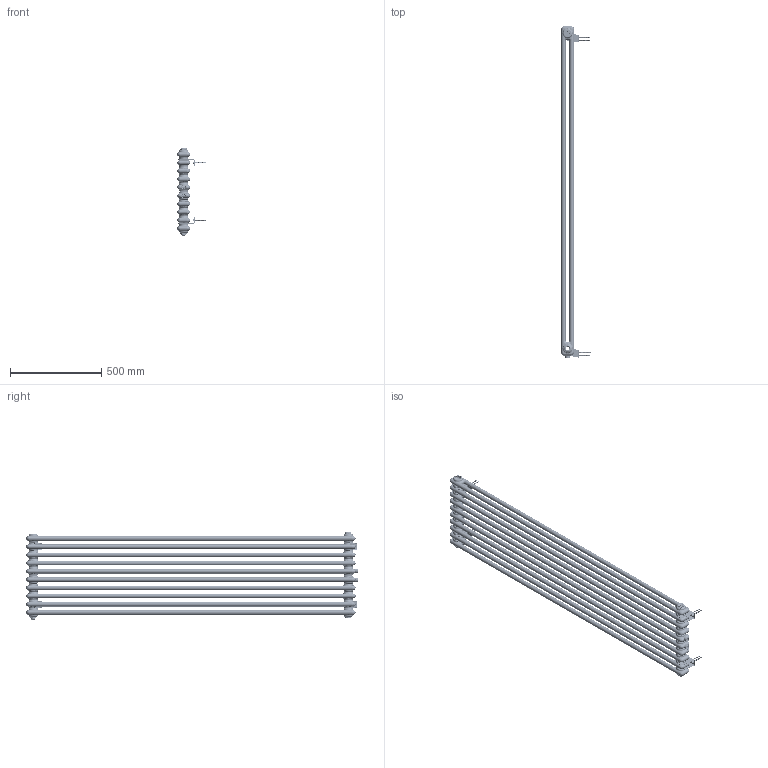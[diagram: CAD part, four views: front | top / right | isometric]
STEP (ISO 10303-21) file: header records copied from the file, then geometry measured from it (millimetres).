
FILE_DESCRIPTION(/* description */ (''),/* implementation_level */ '2;1');
FILE_NAME(/* name */ 'CL02 1800x470 D50',/* time_stamp */ '2023-09-09T14:51:20+08:00',/* author */ (''),/* organization */ (''),/* preprocessor_version */ 'ST-DEVELOPER v9',/* originating_system */ 'UGS - NX 4.0',/* authorisation */ '');
FILE_SCHEMA (('CONFIG_CONTROL_DESIGN'));
Length unit declared in the file: millimetre
Products named in the file (1): AdmiF21Fozfv
Bounding box: 161.6 x 1816 x 476 mm (x, y, z)
Volume: 4148272.6 mm3; surface area: 5493581.4 mm2
Topology: 28 solids, 28 shells, 3659 faces, 8923 edges, 5309 vertices
Faces by surface type: bspline 1151, cylinder 863, plane 739, torus 578, cone 328
Full cylindrical faces by diameter (mm): 19 x2, 25 x2
Entity records: 238682 total; most frequent: CARTESIAN_POINT 162241, ORIENTED_EDGE 17810, DIRECTION 13684, EDGE_CURVE 8905, AXIS2_PLACEMENT_3D 5685, VERTEX_POINT 5311, EDGE_LOOP 3794, ADVANCED_FACE 3659
